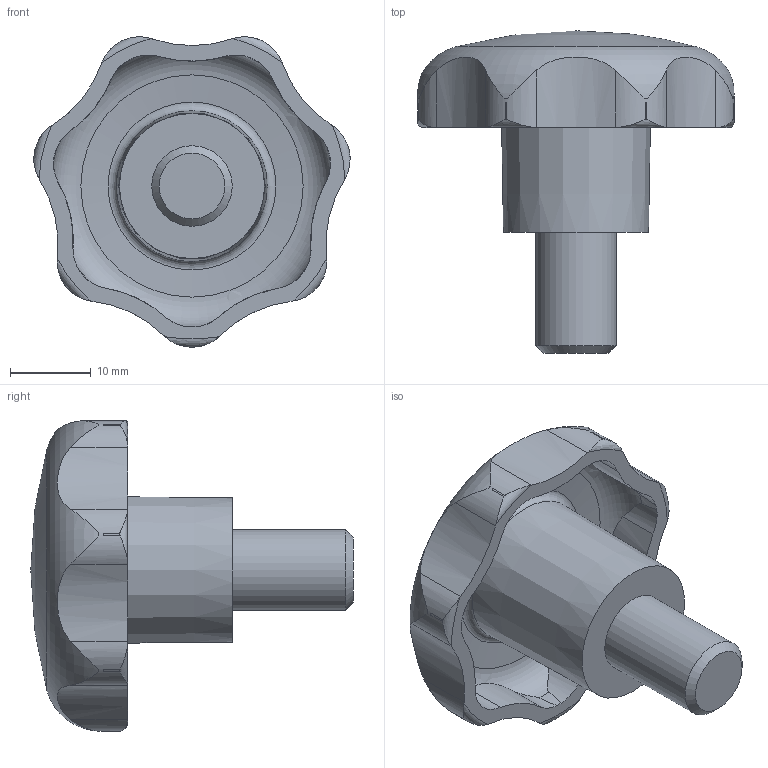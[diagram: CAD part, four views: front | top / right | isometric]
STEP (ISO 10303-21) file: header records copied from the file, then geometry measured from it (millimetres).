
FILE_DESCRIPTION( ( 'STEP AP203' ), '1' );
FILE_NAME( 'C:/Temp/Ganter_Step_05_03_2020/data/2_2/gn_6336_4/gn_6336_4_st/Star knob GN 6336.4-ST-40-M10-15.stp', '2020-03-05T12:07:31', ( 'License CC BY-ND 4.0' ), ( 'CADENAS' ), ' ', 'PARTsolutions', ' ' );
FILE_SCHEMA( ( 'CONFIG_CONTROL_DESIGN' ) );
Length unit declared in the file: millimetre
Products named in the file (1): _Star knob GN 6336.4-ST-40-M10-15
Bounding box: 39.25 x 40 x 38.51 mm (x, y, z)
Volume: 11975.5 mm3; surface area: 5348.5 mm2
Topology: 1 solids, 1 shells, 74 faces, 208 edges, 137 vertices
Faces by surface type: cylinder 43, torus 17, cone 10, plane 3, sphere 1
Full cylindrical faces by diameter (mm): 10 x1
Entity records: 3288 total; most frequent: CARTESIAN_POINT 1437, ORIENTED_EDGE 394, DIRECTION 362, EDGE_CURVE 197, AXIS2_PLACEMENT_3D 160, VERTEX_POINT 135, CIRCLE 85, EDGE_LOOP 83
